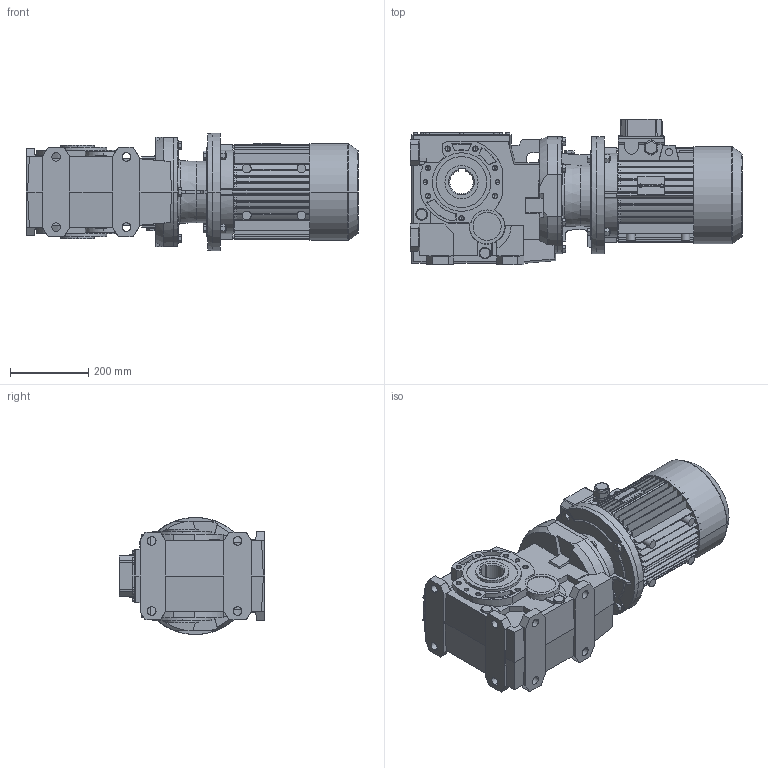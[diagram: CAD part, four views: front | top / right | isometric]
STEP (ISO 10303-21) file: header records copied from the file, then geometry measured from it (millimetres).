
FILE_DESCRIPTION( ( '' ), '1' );
FILE_NAME( '//expscmdclustefs.cadenas.external/client_exchange/iodir/jobs/output/wkb50658912_no0/STEP/B123UC7_97132_B560000000T132S1_2_03.stp', '2012-11-01T00:24:48', ( '' ), ( '' ), ' ', ' ', ' ' );
FILE_SCHEMA( ( 'CONFIG_CONTROL_DESIGN' ) );
Length unit declared in the file: millimetre
Products named in the file (11): 1; 2; 3; 4; 5; 6; 7; 8; 9; 10; 11
Bounding box: 850.5 x 373.6 x 300 mm (x, y, z)
Volume: 42122115.3 mm3; surface area: 2268588.6 mm2
Topology: 11 solids, 11 shells, 2647 faces, 7160 edges, 4671 vertices
Faces by surface type: plane 1407, cylinder 1007, cone 218, torus 9, sphere 6
Entity records: 84511 total; most frequent: CARTESIAN_POINT 15943, DIRECTION 14677, ORIENTED_EDGE 14244, EDGE_CURVE 7122, AXIS2_PLACEMENT_3D 5201, VERTEX_POINT 4671, LINE 4275, VECTOR 4275
